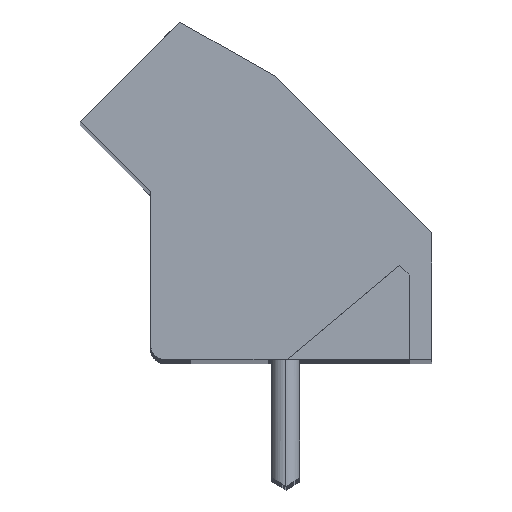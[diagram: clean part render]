
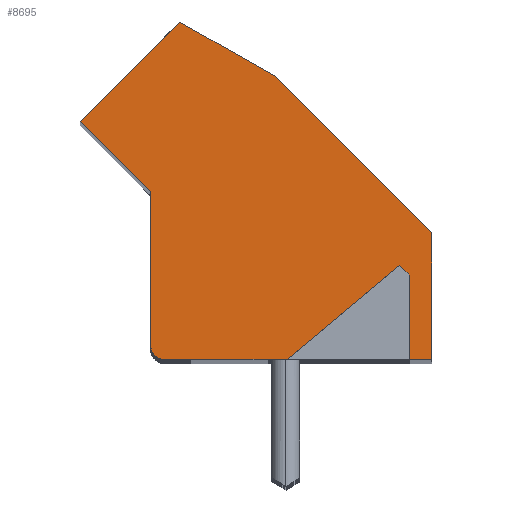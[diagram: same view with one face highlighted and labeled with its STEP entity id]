
A CAD part, top view. The second image highlights one B-rep face of the part: STEP entity #8695.
In plain terms, the highlighted planar face has unit normal (0, 0, 1).
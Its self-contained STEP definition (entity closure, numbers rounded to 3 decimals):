
#167 = VERTEX_POINT ( 'NONE', #21101 ) ;
#1881 = EDGE_CURVE ( 'NONE', #1996, #14387, #21103, .T. ) ;
#1996 = VERTEX_POINT ( 'NONE', #21177 ) ;
#4353 = CARTESIAN_POINT ( 'NONE',  ( 1.036, 11.984, 0. ) ) ;
#4438 = DIRECTION ( 'NONE',  ( -0.87, 0.493, 0. ) ) ;
#4439 = VECTOR ( 'NONE', #4438, 1000. ) ;
#4440 = CARTESIAN_POINT ( 'NONE',  ( 4.411, 10.073, 0. ) ) ;
#4441 = LINE ( 'NONE', #4440, #4439 ) ;
#5898 = CARTESIAN_POINT ( 'NONE',  ( 10., -0.016, 0. ) ) ;
#5923 = DIRECTION ( 'NONE',  ( 1., 0., 0. ) ) ;
#5924 = VECTOR ( 'NONE', #5923, 1000. ) ;
#5925 = CARTESIAN_POINT ( 'NONE',  ( -2.575, -0.016, 0. ) ) ;
#5926 = LINE ( 'NONE', #5925, #5924 ) ;
#5945 = CARTESIAN_POINT ( 'NONE',  ( 9.2, -0.016, 0. ) ) ;
#6145 = DIRECTION ( 'NONE',  ( 1., 0., 0. ) ) ;
#6146 = VECTOR ( 'NONE', #6145, 1000. ) ;
#6147 = CARTESIAN_POINT ( 'NONE',  ( -2.575, -0.016, 0. ) ) ;
#6149 = LINE ( 'NONE', #6147, #6146 ) ;
#6208 = CARTESIAN_POINT ( 'NONE',  ( 4.858, -0.016, 0. ) ) ;
#6687 = CARTESIAN_POINT ( 'NONE',  ( 10., 4.484, 0. ) ) ;
#6719 = DIRECTION ( 'NONE',  ( -0.707, 0.707, 0. ) ) ;
#6720 = VECTOR ( 'NONE', #6719, 1000. ) ;
#6721 = CARTESIAN_POINT ( 'NONE',  ( 10., 4.484, 0. ) ) ;
#6722 = LINE ( 'NONE', #6721, #6720 ) ;
#8678 = VERTEX_POINT ( 'NONE', #24363 ) ;
#8691 = EDGE_LOOP ( 'NONE', ( #8694, #8699, #8734, #8737, #8698, #8723, #8719, #8718, #8716, #8700, #8715, #8713, #8714 ) ) ;
#8694 = ORIENTED_EDGE ( 'NONE', *, *, #29699, .T. ) ;
#8695 = ADVANCED_FACE ( 'NONE', ( #24387 ), #24386, .T. ) ;
#8698 = ORIENTED_EDGE ( 'NONE', *, *, #8740, .T. ) ;
#8699 = ORIENTED_EDGE ( 'NONE', *, *, #9175, .T. ) ;
#8700 = ORIENTED_EDGE ( 'NONE', *, *, #29925, .T. ) ;
#8709 = EDGE_CURVE ( 'NONE', #8678, #9927, #24432, .T. ) ;
#8713 = ORIENTED_EDGE ( 'NONE', *, *, #8988, .T. ) ;
#8714 = ORIENTED_EDGE ( 'NONE', *, *, #9010, .T. ) ;
#8715 = ORIENTED_EDGE ( 'NONE', *, *, #9001, .T. ) ;
#8716 = ORIENTED_EDGE ( 'NONE', *, *, #14439, .T. ) ;
#8718 = ORIENTED_EDGE ( 'NONE', *, *, #1881, .T. ) ;
#8719 = ORIENTED_EDGE ( 'NONE', *, *, #9905, .T. ) ;
#8723 = ORIENTED_EDGE ( 'NONE', *, *, #8709, .T. ) ;
#8734 = ORIENTED_EDGE ( 'NONE', *, *, #43188, .T. ) ;
#8737 = ORIENTED_EDGE ( 'NONE', *, *, #28690, .T. ) ;
#8740 = EDGE_CURVE ( 'NONE', #28629, #8678, #24463, .T. ) ;
#8988 = EDGE_CURVE ( 'NONE', #9000, #8994, #24960, .T. ) ;
#8994 = VERTEX_POINT ( 'NONE', #24952 ) ;
#9000 = VERTEX_POINT ( 'NONE', #24945 ) ;
#9001 = EDGE_CURVE ( 'NONE', #29931, #9000, #24944, .T. ) ;
#9010 = EDGE_CURVE ( 'NONE', #8994, #29693, #24984, .T. ) ;
#9175 = EDGE_CURVE ( 'NONE', #29689, #42422, #25109, .T. ) ;
#9905 = EDGE_CURVE ( 'NONE', #9927, #1996, #26262, .T. ) ;
#9927 = VERTEX_POINT ( 'NONE', #26294 ) ;
#14385 = VERTEX_POINT ( 'NONE', #34965 ) ;
#14387 = VERTEX_POINT ( 'NONE', #34964 ) ;
#14439 = EDGE_CURVE ( 'NONE', #14387, #14385, #35076, .T. ) ;
#21101 = CARTESIAN_POINT ( 'NONE',  ( 4.411, 10.073, 0. ) ) ;
#21103 = LINE ( 'NONE', #21109, #21179 ) ;
#21109 = CARTESIAN_POINT ( 'NONE',  ( 0., 6.02, 0. ) ) ;
#21177 = CARTESIAN_POINT ( 'NONE',  ( 0., 5.907, 0. ) ) ;
#21178 = DIRECTION ( 'NONE',  ( 0., -1., 0. ) ) ;
#21179 = VECTOR ( 'NONE', #21178, 1000. ) ;
#24363 = CARTESIAN_POINT ( 'NONE',  ( -2.5, 8.448, 0. ) ) ;
#24382 = DIRECTION ( 'NONE',  ( 1., 0., 0. ) ) ;
#24383 = DIRECTION ( 'NONE',  ( 0., 0., 1. ) ) ;
#24384 = CARTESIAN_POINT ( 'NONE',  ( -2.575, -0.016, 0. ) ) ;
#24385 = AXIS2_PLACEMENT_3D ( 'NONE', #24384, #24383, #24382 ) ;
#24386 = PLANE ( 'NONE',  #24385 ) ;
#24387 = FACE_OUTER_BOUND ( 'NONE', #8691, .T. ) ;
#24429 = DIRECTION ( 'NONE',  ( 0.707, -0.707, 0. ) ) ;
#24430 = VECTOR ( 'NONE', #24429, 1000. ) ;
#24431 = CARTESIAN_POINT ( 'NONE',  ( -1.265, 7.213, 0. ) ) ;
#24432 = LINE ( 'NONE', #24431, #24430 ) ;
#24460 = DIRECTION ( 'NONE',  ( -0.707, -0.707, 0. ) ) ;
#24461 = VECTOR ( 'NONE', #24460, 1000. ) ;
#24462 = CARTESIAN_POINT ( 'NONE',  ( -0.732, 10.216, 0. ) ) ;
#24463 = LINE ( 'NONE', #24462, #24461 ) ;
#24941 = DIRECTION ( 'NONE',  ( 0.766, 0.643, 0. ) ) ;
#24942 = VECTOR ( 'NONE', #24941, 1000. ) ;
#24943 = CARTESIAN_POINT ( 'NONE',  ( 4.858, -0.016, 0. ) ) ;
#24944 = LINE ( 'NONE', #24943, #24942 ) ;
#24945 = CARTESIAN_POINT ( 'NONE',  ( 8.85, 3.334, 0. ) ) ;
#24952 = CARTESIAN_POINT ( 'NONE',  ( 9.2, 2.984, 0. ) ) ;
#24957 = DIRECTION ( 'NONE',  ( 0.707, -0.707, 0. ) ) ;
#24958 = VECTOR ( 'NONE', #24957, 1000. ) ;
#24959 = CARTESIAN_POINT ( 'NONE',  ( 8.85, 3.334, 0. ) ) ;
#24960 = LINE ( 'NONE', #24959, #24958 ) ;
#24981 = DIRECTION ( 'NONE',  ( 0., -1., 0. ) ) ;
#24982 = VECTOR ( 'NONE', #24981, 1000. ) ;
#24983 = CARTESIAN_POINT ( 'NONE',  ( 9.2, 6.02, 0. ) ) ;
#24984 = LINE ( 'NONE', #24983, #24982 ) ;
#25106 = DIRECTION ( 'NONE',  ( 0., 1., 0. ) ) ;
#25107 = VECTOR ( 'NONE', #25106, 1000. ) ;
#25108 = CARTESIAN_POINT ( 'NONE',  ( 10., 6.02, 0. ) ) ;
#25109 = LINE ( 'NONE', #25108, #25107 ) ;
#26258 = DIRECTION ( 'NONE',  ( 1., 0., 0. ) ) ;
#26259 = DIRECTION ( 'NONE',  ( 0., 0., -1. ) ) ;
#26261 = AXIS2_PLACEMENT_3D ( 'NONE', #26268, #26259, #26258 ) ;
#26262 = CIRCLE ( 'NONE', #26261, 0.1 ) ;
#26268 = CARTESIAN_POINT ( 'NONE',  ( -0.1, 5.907, 0. ) ) ;
#26294 = CARTESIAN_POINT ( 'NONE',  ( -0.029, 5.978, 0. ) ) ;
#28629 = VERTEX_POINT ( 'NONE', #4353 ) ;
#28690 = EDGE_CURVE ( 'NONE', #167, #28629, #4441, .T. ) ;
#29689 = VERTEX_POINT ( 'NONE', #5898 ) ;
#29693 = VERTEX_POINT ( 'NONE', #5945 ) ;
#29699 = EDGE_CURVE ( 'NONE', #29693, #29689, #5926, .T. ) ;
#29925 = EDGE_CURVE ( 'NONE', #14385, #29931, #6149, .T. ) ;
#29931 = VERTEX_POINT ( 'NONE', #6208 ) ;
#34964 = CARTESIAN_POINT ( 'NONE',  ( 0., 0.484, 0. ) ) ;
#34965 = CARTESIAN_POINT ( 'NONE',  ( 0.5, -0.016, 0. ) ) ;
#35072 = DIRECTION ( 'NONE',  ( -1., 0., 0. ) ) ;
#35073 = DIRECTION ( 'NONE',  ( 0., 0., 1. ) ) ;
#35074 = CARTESIAN_POINT ( 'NONE',  ( 0.5, 0.484, 0. ) ) ;
#35075 = AXIS2_PLACEMENT_3D ( 'NONE', #35074, #35073, #35072 ) ;
#35076 = CIRCLE ( 'NONE', #35075, 0.5 ) ;
#42422 = VERTEX_POINT ( 'NONE', #6687 ) ;
#43188 = EDGE_CURVE ( 'NONE', #42422, #167, #6722, .T. ) ;
